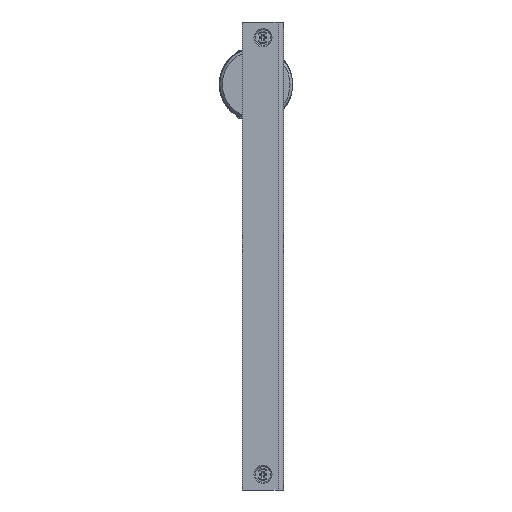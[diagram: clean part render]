
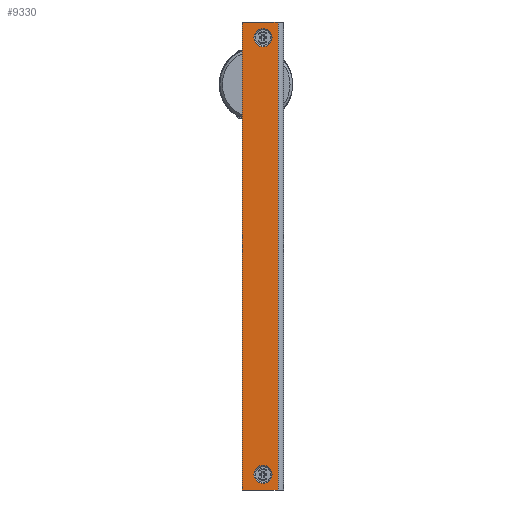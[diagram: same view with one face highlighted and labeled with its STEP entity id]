
A CAD part, left-side view. The second image highlights one B-rep face of the part: STEP entity #9330.
In plain terms, the highlighted planar face has unit normal (-1, 0, 0).
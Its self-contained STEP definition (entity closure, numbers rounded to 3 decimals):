
#7007 = CARTESIAN_POINT ( 'NONE',  ( -37., 4., -40.25 ) ) ;
#7012 = CARTESIAN_POINT ( 'NONE',  ( -37., 4., 40.25 ) ) ;
#7040 = AXIS2_PLACEMENT_3D ( 'NONE', #7078, #7071, #7070 ) ;
#7070 = DIRECTION ( 'NONE',  ( 0., 0., 1. ) ) ;
#7071 = DIRECTION ( 'NONE',  ( -1., 0., 0. ) ) ;
#7072 = CARTESIAN_POINT ( 'NONE',  ( -37., 4., -43.75 ) ) ;
#7074 = CIRCLE ( 'NONE', #7040, 1.75 ) ;
#7078 = CARTESIAN_POINT ( 'NONE',  ( -37., 4., -42. ) ) ;
#7150 = CIRCLE ( 'NONE', #7194, 1.75 ) ;
#7183 = DIRECTION ( 'NONE',  ( 0., 0., 1. ) ) ;
#7184 = DIRECTION ( 'NONE',  ( -1., 0., 0. ) ) ;
#7185 = CARTESIAN_POINT ( 'NONE',  ( -37., 4., 42. ) ) ;
#7192 = CARTESIAN_POINT ( 'NONE',  ( -37., 4., 43.75 ) ) ;
#7194 = AXIS2_PLACEMENT_3D ( 'NONE', #7185, #7184, #7183 ) ;
#9046 = EDGE_CURVE ( 'NONE', #13822, #13851, #26719, .T. ) ;
#9057 = EDGE_CURVE ( 'NONE', #13919, #13824, #26774, .T. ) ;
#9300 = VERTEX_POINT ( 'NONE', #27254 ) ;
#9305 = ORIENTED_EDGE ( 'NONE', *, *, #9320, .T. ) ;
#9307 = EDGE_LOOP ( 'NONE', ( #9305, #9319, #9312, #9334 ) ) ;
#9308 = VERTEX_POINT ( 'NONE', #27247 ) ;
#9311 = EDGE_LOOP ( 'NONE', ( #9324, #9318 ) ) ;
#9312 = ORIENTED_EDGE ( 'NONE', *, *, #9332, .F. ) ;
#9313 = EDGE_CURVE ( 'NONE', #9300, #9321, #27303, .T. ) ;
#9315 = EDGE_CURVE ( 'NONE', #9331, #9308, #27294, .T. ) ;
#9318 = ORIENTED_EDGE ( 'NONE', *, *, #13849, .F. ) ;
#9319 = ORIENTED_EDGE ( 'NONE', *, *, #9315, .F. ) ;
#9320 = EDGE_CURVE ( 'NONE', #9321, #9308, #27297, .T. ) ;
#9321 = VERTEX_POINT ( 'NONE', #27289 ) ;
#9324 = ORIENTED_EDGE ( 'NONE', *, *, #9046, .F. ) ;
#9330 = ADVANCED_FACE ( 'NONE', ( #27304, #27267, #27283 ), #27287, .F. ) ;
#9331 = VERTEX_POINT ( 'NONE', #27235 ) ;
#9332 = EDGE_CURVE ( 'NONE', #9300, #9331, #27276, .T. ) ;
#9333 = EDGE_LOOP ( 'NONE', ( #9338, #9337 ) ) ;
#9334 = ORIENTED_EDGE ( 'NONE', *, *, #9313, .T. ) ;
#9337 = ORIENTED_EDGE ( 'NONE', *, *, #13917, .F. ) ;
#9338 = ORIENTED_EDGE ( 'NONE', *, *, #9057, .F. ) ;
#13822 = VERTEX_POINT ( 'NONE', #7007 ) ;
#13824 = VERTEX_POINT ( 'NONE', #7012 ) ;
#13849 = EDGE_CURVE ( 'NONE', #13851, #13822, #7074, .T. ) ;
#13851 = VERTEX_POINT ( 'NONE', #7072 ) ;
#13917 = EDGE_CURVE ( 'NONE', #13824, #13919, #7150, .T. ) ;
#13919 = VERTEX_POINT ( 'NONE', #7192 ) ;
#26644 = DIRECTION ( 'NONE',  ( -1., 0., 0. ) ) ;
#26699 = CARTESIAN_POINT ( 'NONE',  ( -37., 4., -42. ) ) ;
#26700 = AXIS2_PLACEMENT_3D ( 'NONE', #26699, #26644, #26743 ) ;
#26719 = CIRCLE ( 'NONE', #26700, 1.75 ) ;
#26743 = DIRECTION ( 'NONE',  ( 0., 0., 1. ) ) ;
#26763 = DIRECTION ( 'NONE',  ( 0., 0., 1. ) ) ;
#26764 = DIRECTION ( 'NONE',  ( -1., 0., 0. ) ) ;
#26765 = CARTESIAN_POINT ( 'NONE',  ( -37., 4., 42. ) ) ;
#26766 = AXIS2_PLACEMENT_3D ( 'NONE', #26765, #26764, #26763 ) ;
#26774 = CIRCLE ( 'NONE', #26766, 1.75 ) ;
#27235 = CARTESIAN_POINT ( 'NONE',  ( -37., 1.1, 45. ) ) ;
#27247 = CARTESIAN_POINT ( 'NONE',  ( -37., 1.1, -45. ) ) ;
#27254 = CARTESIAN_POINT ( 'NONE',  ( -37., 8., 45. ) ) ;
#27267 = FACE_OUTER_BOUND ( 'NONE', #9307, .T. ) ;
#27273 = DIRECTION ( 'NONE',  ( 0., -1., 0. ) ) ;
#27274 = VECTOR ( 'NONE', #27273, 1000. ) ;
#27275 = CARTESIAN_POINT ( 'NONE',  ( -37., 8., 45. ) ) ;
#27276 = LINE ( 'NONE', #27275, #27274 ) ;
#27279 = DIRECTION ( 'NONE',  ( 0., 0., -1. ) ) ;
#27280 = DIRECTION ( 'NONE',  ( 1., 0., 0. ) ) ;
#27283 = FACE_BOUND ( 'NONE', #9333, .T. ) ;
#27284 = DIRECTION ( 'NONE',  ( 0., -1., 0. ) ) ;
#27285 = VECTOR ( 'NONE', #27284, 1000. ) ;
#27286 = CARTESIAN_POINT ( 'NONE',  ( -37., 8., 45. ) ) ;
#27287 = PLANE ( 'NONE',  #27290 ) ;
#27289 = CARTESIAN_POINT ( 'NONE',  ( -37., 8., -45. ) ) ;
#27290 = AXIS2_PLACEMENT_3D ( 'NONE', #27286, #27280, #27279 ) ;
#27291 = DIRECTION ( 'NONE',  ( 0., 0., -1. ) ) ;
#27292 = VECTOR ( 'NONE', #27291, 1000. ) ;
#27293 = CARTESIAN_POINT ( 'NONE',  ( -37., 1.1, 45. ) ) ;
#27294 = LINE ( 'NONE', #27293, #27292 ) ;
#27296 = CARTESIAN_POINT ( 'NONE',  ( -37., 8., -45. ) ) ;
#27297 = LINE ( 'NONE', #27296, #27285 ) ;
#27300 = DIRECTION ( 'NONE',  ( 0., 0., -1. ) ) ;
#27301 = VECTOR ( 'NONE', #27300, 1000. ) ;
#27302 = CARTESIAN_POINT ( 'NONE',  ( -37., 8., 45. ) ) ;
#27303 = LINE ( 'NONE', #27302, #27301 ) ;
#27304 = FACE_BOUND ( 'NONE', #9311, .T. ) ;
